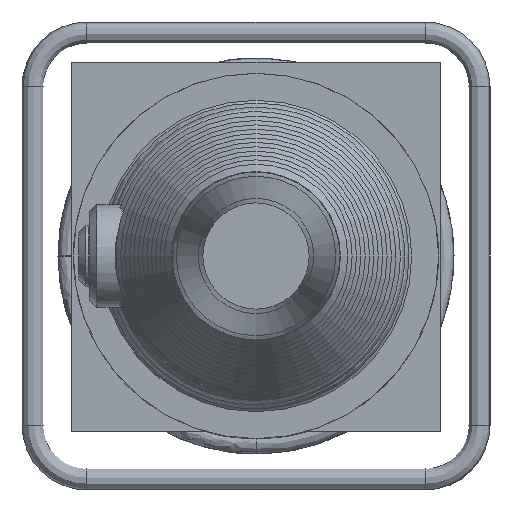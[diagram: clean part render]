
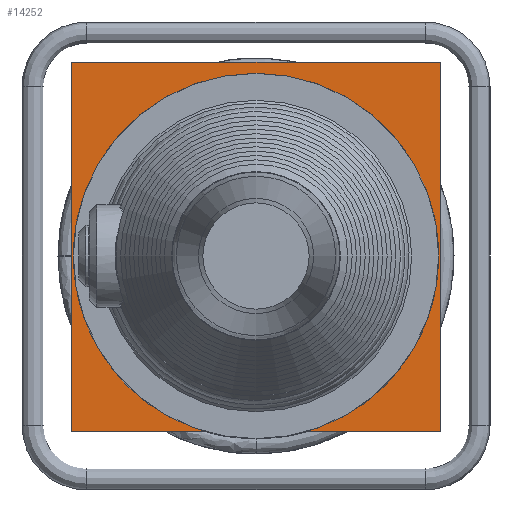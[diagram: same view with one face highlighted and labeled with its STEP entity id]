
A CAD part, left-side view. The second image highlights one B-rep face of the part: STEP entity #14252.
In plain terms, the highlighted planar face has unit normal (-1, 0, 0).
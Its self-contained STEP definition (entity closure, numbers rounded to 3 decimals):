
#1365=PLANE('',#15099);
#2323=LINE('',#30406,#3205);
#2324=LINE('',#30408,#3206);
#2325=LINE('',#30410,#3207);
#2326=LINE('',#30412,#3208);
#2327=LINE('',#30413,#3209);
#3205=VECTOR('',#17638,73.426);
#3206=VECTOR('',#17639,205.);
#3207=VECTOR('',#17640,205.);
#3208=VECTOR('',#17641,205.);
#3209=VECTOR('',#17642,73.426);
#4206=FACE_OUTER_BOUND('',#5142,.T.);
#5142=EDGE_LOOP('',(#12896,#12897,#12898,#12899,#12900,#12901));
#5593=CIRCLE('',#15076,101.5);
#6981=VERTEX_POINT('',#30377);
#6982=VERTEX_POINT('',#30378);
#6984=VERTEX_POINT('',#30405);
#6985=VERTEX_POINT('',#30407);
#6986=VERTEX_POINT('',#30409);
#6987=VERTEX_POINT('',#30411);
#8979=EDGE_CURVE('',#6981,#6982,#5593,.T.);
#8983=EDGE_CURVE('',#6982,#6984,#2323,.T.);
#8984=EDGE_CURVE('',#6984,#6985,#2324,.T.);
#8985=EDGE_CURVE('',#6985,#6986,#2325,.T.);
#8986=EDGE_CURVE('',#6986,#6987,#2326,.T.);
#8987=EDGE_CURVE('',#6987,#6981,#2327,.T.);
#12896=ORIENTED_EDGE('',*,*,#8979,.T.);
#12897=ORIENTED_EDGE('',*,*,#8983,.T.);
#12898=ORIENTED_EDGE('',*,*,#8984,.T.);
#12899=ORIENTED_EDGE('',*,*,#8985,.T.);
#12900=ORIENTED_EDGE('',*,*,#8986,.T.);
#12901=ORIENTED_EDGE('',*,*,#8987,.T.);
#14252=ADVANCED_FACE('',(#4206),#1365,.T.);
#15076=AXIS2_PLACEMENT_3D('',#30379,#17589,#17590);
#15099=AXIS2_PLACEMENT_3D('',#30404,#17636,#17637);
#17589=DIRECTION('center_axis',(1.,0.,0.));
#17590=DIRECTION('ref_axis',(0.,-0.881,0.474));
#17636=DIRECTION('center_axis',(-1.,0.,0.));
#17637=DIRECTION('ref_axis',(0.,0.,-1.));
#17638=DIRECTION('',(0.,-1.,0.));
#17639=DIRECTION('',(0.,0.,1.));
#17640=DIRECTION('',(0.,1.,0.));
#17641=DIRECTION('',(0.,0.,-1.));
#17642=DIRECTION('',(0.,-1.,0.));
#30377=CARTESIAN_POINT('',(-112.151,29.074,-97.247));
#30378=CARTESIAN_POINT('',(-112.151,-29.074,-97.247));
#30379=CARTESIAN_POINT('Origin',(-112.151,0.,
0.));
#30404=CARTESIAN_POINT('Origin',(-112.151,0.,
5.253));
#30405=CARTESIAN_POINT('',(-112.151,-102.5,-97.247));
#30406=CARTESIAN_POINT('',(-112.151,102.5,-97.247));
#30407=CARTESIAN_POINT('',(-112.151,-102.5,107.753));
#30408=CARTESIAN_POINT('',(-112.151,-102.5,-97.247));
#30409=CARTESIAN_POINT('',(-112.151,102.5,107.753));
#30410=CARTESIAN_POINT('',(-112.151,-102.5,107.753));
#30411=CARTESIAN_POINT('',(-112.151,102.5,-97.247));
#30412=CARTESIAN_POINT('',(-112.151,102.5,107.753));
#30413=CARTESIAN_POINT('',(-112.151,102.5,-97.247));
